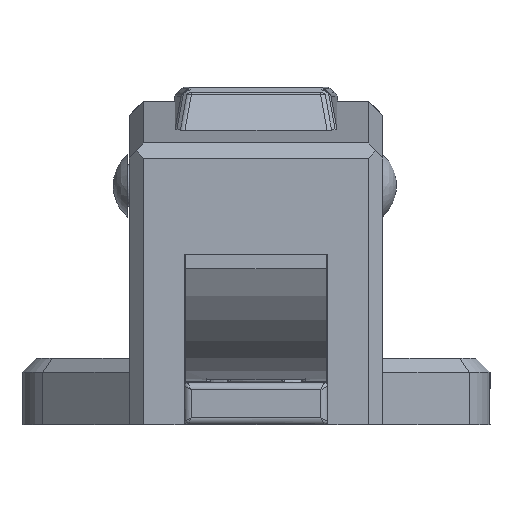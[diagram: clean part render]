
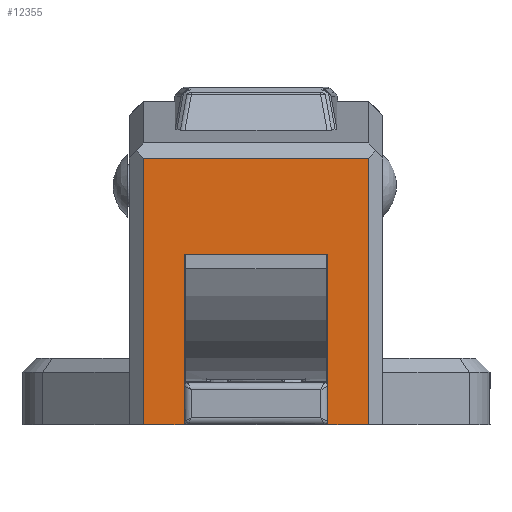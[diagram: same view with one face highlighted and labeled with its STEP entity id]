
A CAD part, left-side view. The second image highlights one B-rep face of the part: STEP entity #12355.
In plain terms, the highlighted planar face has unit normal (-1, 0, 0) as drawn and (0, 1, 0) by its records, which use the part's own axes.
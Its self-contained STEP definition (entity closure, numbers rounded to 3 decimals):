
#413=PLANE('',#13266);
#791=LINE('',#19288,#1807);
#801=LINE('',#19313,#1817);
#860=LINE('',#19452,#1876);
#861=LINE('',#19455,#1877);
#862=LINE('',#19457,#1878);
#863=LINE('',#19458,#1879);
#864=LINE('',#19460,#1880);
#865=LINE('',#19461,#1881);
#1807=VECTOR('',#15111,5.84);
#1817=VECTOR('',#15129,5.84);
#1876=VECTOR('',#15278,38.028);
#1877=VECTOR('',#15281,24.32);
#1878=VECTOR('',#15282,32.18);
#1879=VECTOR('',#15283,38.028);
#1880=VECTOR('',#15284,24.32);
#1881=VECTOR('',#15285,20.5);
#3180=FACE_OUTER_BOUND('',#4001,.T.);
#4001=EDGE_LOOP('',(#9012,#9013,#9014,#9015,#9016,#9017,#9018,#9019));
#5629=VERTEX_POINT('',#19248);
#5648=VERTEX_POINT('',#19285);
#5649=VERTEX_POINT('',#19287);
#5660=VERTEX_POINT('',#19311);
#5695=VERTEX_POINT('',#19450);
#5696=VERTEX_POINT('',#19454);
#5697=VERTEX_POINT('',#19456);
#5698=VERTEX_POINT('',#19459);
#6846=EDGE_CURVE('',#5649,#5648,#791,.T.);
#6860=EDGE_CURVE('',#5629,#5660,#801,.T.);
#6927=EDGE_CURVE('',#5695,#5660,#860,.T.);
#6928=EDGE_CURVE('',#5629,#5696,#861,.T.);
#6929=EDGE_CURVE('',#5695,#5697,#862,.T.);
#6930=EDGE_CURVE('',#5697,#5649,#863,.T.);
#6931=EDGE_CURVE('',#5648,#5698,#864,.T.);
#6932=EDGE_CURVE('',#5696,#5698,#865,.T.);
#9012=ORIENTED_EDGE('',*,*,#6928,.F.);
#9013=ORIENTED_EDGE('',*,*,#6860,.T.);
#9014=ORIENTED_EDGE('',*,*,#6927,.F.);
#9015=ORIENTED_EDGE('',*,*,#6929,.T.);
#9016=ORIENTED_EDGE('',*,*,#6930,.T.);
#9017=ORIENTED_EDGE('',*,*,#6846,.T.);
#9018=ORIENTED_EDGE('',*,*,#6931,.T.);
#9019=ORIENTED_EDGE('',*,*,#6932,.F.);
#12355=ADVANCED_FACE('',(#3180),#413,.T.);
#13266=AXIS2_PLACEMENT_3D('',#19453,#15279,#15280);
#15111=DIRECTION('',(0.,0.,1.));
#15129=DIRECTION('',(0.,0.,1.));
#15278=DIRECTION('',(-1.,0.,0.));
#15279=DIRECTION('center_axis',(0.,1.,0.));
#15280=DIRECTION('ref_axis',(0.,0.,1.));
#15281=DIRECTION('',(1.,0.,0.));
#15282=DIRECTION('',(0.,0.,-1.));
#15283=DIRECTION('',(-1.,0.,0.));
#15284=DIRECTION('',(1.,0.,0.));
#15285=DIRECTION('',(0.,0.,-1.));
#19248=CARTESIAN_POINT('',(0.,43.215,10.25));
#19285=CARTESIAN_POINT('',(0.,43.215,-10.25));
#19287=CARTESIAN_POINT('',(0.,43.215,-16.09));
#19288=CARTESIAN_POINT('',(0.,43.215,-16.09));
#19311=CARTESIAN_POINT('',(0.,43.215,16.09));
#19313=CARTESIAN_POINT('',(0.,43.215,10.25));
#19450=CARTESIAN_POINT('',(38.028,43.215,16.09));
#19452=CARTESIAN_POINT('',(38.028,43.215,16.09));
#19453=CARTESIAN_POINT('Origin',(0.,43.215,-18.09));
#19454=CARTESIAN_POINT('',(24.32,43.215,10.25));
#19455=CARTESIAN_POINT('',(0.,43.215,10.25));
#19456=CARTESIAN_POINT('',(38.028,43.215,-16.09));
#19457=CARTESIAN_POINT('',(38.028,43.215,16.09));
#19458=CARTESIAN_POINT('',(38.028,43.215,-16.09));
#19459=CARTESIAN_POINT('',(24.32,43.215,-10.25));
#19460=CARTESIAN_POINT('',(0.,43.215,-10.25));
#19461=CARTESIAN_POINT('',(24.32,43.215,10.25));
